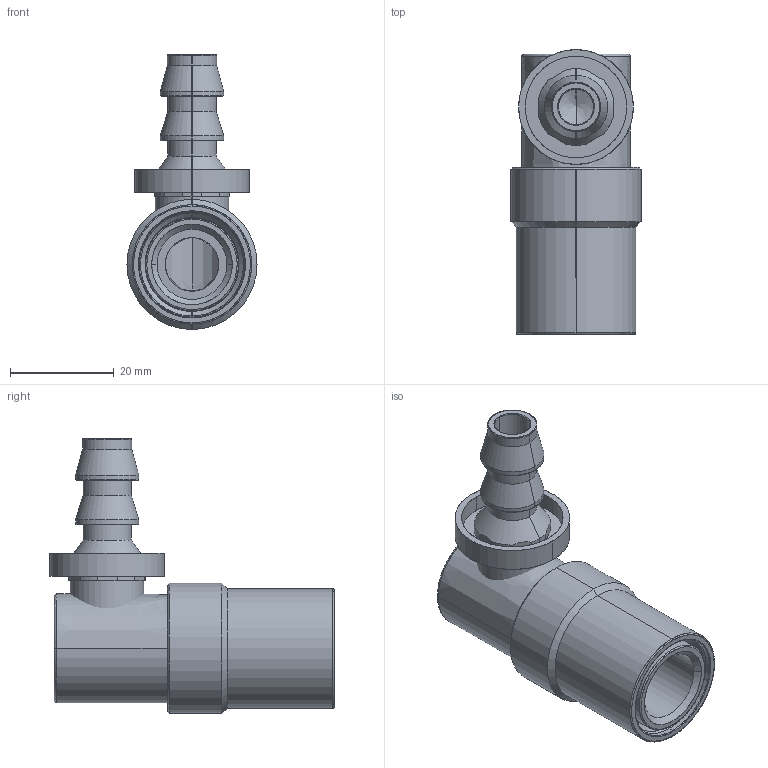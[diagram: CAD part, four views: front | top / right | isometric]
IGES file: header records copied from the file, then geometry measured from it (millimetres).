
Start section: SolidWorks IGES file using analytic representation for surfaces
Global section: file name: C:\Users\365admin\AppData\Local\Temp\InFlowConvert3DWorking\SC316-PL-L.igs; native system: SolidWorks 2019; preprocessor: SolidWorks 2019; author: 365admin; date: 220203.024815; units: inch
Bounding box: 25.08 x 54.8 x 52.99 mm (x, y, z)
Surface area: 14817.4 mm2 (no closed solid volume)
Topology: 0 solids, 0 shells, 174 faces, 2077 edges, 2075 vertices
Faces by surface type: revolution 104, bspline 70
